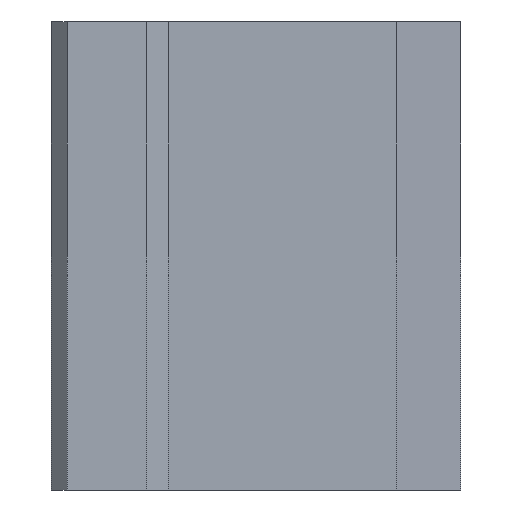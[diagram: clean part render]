
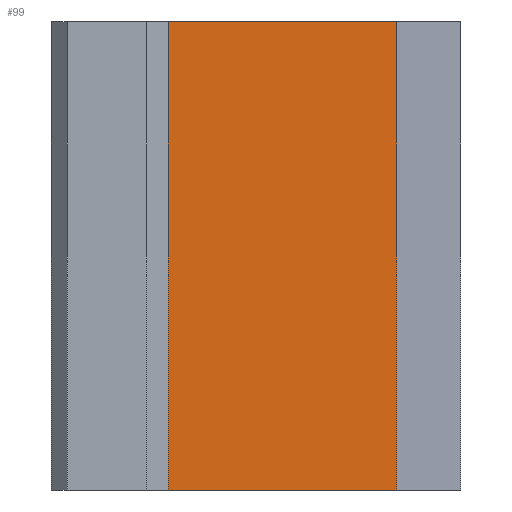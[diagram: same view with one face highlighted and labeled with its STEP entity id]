
A CAD part, left-side view. The second image highlights one B-rep face of the part: STEP entity #99.
In plain terms, the highlighted planar face has unit normal (-1, 0, 0).
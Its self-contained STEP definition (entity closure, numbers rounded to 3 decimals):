
#99=ADVANCED_FACE('',(#203),#204,.F.);
#203=FACE_OUTER_BOUND('',#364,.T.);
#204=PLANE('',#365);
#364=EDGE_LOOP('',(#672,#673,#674,#675));
#365=AXIS2_PLACEMENT_3D('',#676,#677,#678);
#672=ORIENTED_EDGE('',*,*,#988,.T.);
#673=ORIENTED_EDGE('',*,*,#1044,.F.);
#674=ORIENTED_EDGE('',*,*,#998,.F.);
#675=ORIENTED_EDGE('',*,*,#1045,.T.);
#676=CARTESIAN_POINT('',(-23.0,8.0,22.0));
#677=DIRECTION('',(1.0,0.0,0.0));
#678=DIRECTION('',(0.0,1.0,0.0));
#988=EDGE_CURVE('',#1169,#1167,#1170,.T.);
#998=EDGE_CURVE('',#1187,#1189,#1190,.T.);
#1044=EDGE_CURVE('',#1189,#1167,#1264,.T.);
#1045=EDGE_CURVE('',#1187,#1169,#1265,.T.);
#1167=VERTEX_POINT('',#1443);
#1169=VERTEX_POINT('',#1446);
#1170=LINE('',#1447,#1448);
#1187=VERTEX_POINT('',#1473);
#1189=VERTEX_POINT('',#1476);
#1190=LINE('',#1477,#1478);
#1264=LINE('',#1584,#1585);
#1265=LINE('',#1586,#1587);
#1443=CARTESIAN_POINT('',(-23.0,-13.5,-22.0));
#1446=CARTESIAN_POINT('',(-23.0,8.0,-22.0));
#1447=CARTESIAN_POINT('',(-23.0,8.0,-22.0));
#1448=VECTOR('',#1770,1.0);
#1473=CARTESIAN_POINT('',(-23.0,8.0,22.0));
#1476=CARTESIAN_POINT('',(-23.0,-13.5,22.0));
#1477=CARTESIAN_POINT('',(-23.0,8.0,22.0));
#1478=VECTOR('',#1780,1.0);
#1584=CARTESIAN_POINT('',(-23.0,-13.5,22.0));
#1585=VECTOR('',#1852,1.0);
#1586=CARTESIAN_POINT('',(-23.0,8.0,22.0));
#1587=VECTOR('',#1853,1.0);
#1770=DIRECTION('',(0.0,-1.0,0.0));
#1780=DIRECTION('',(0.0,-1.0,0.0));
#1852=DIRECTION('',(0.0,0.0,-1.0));
#1853=DIRECTION('',(0.0,0.0,-1.0));
